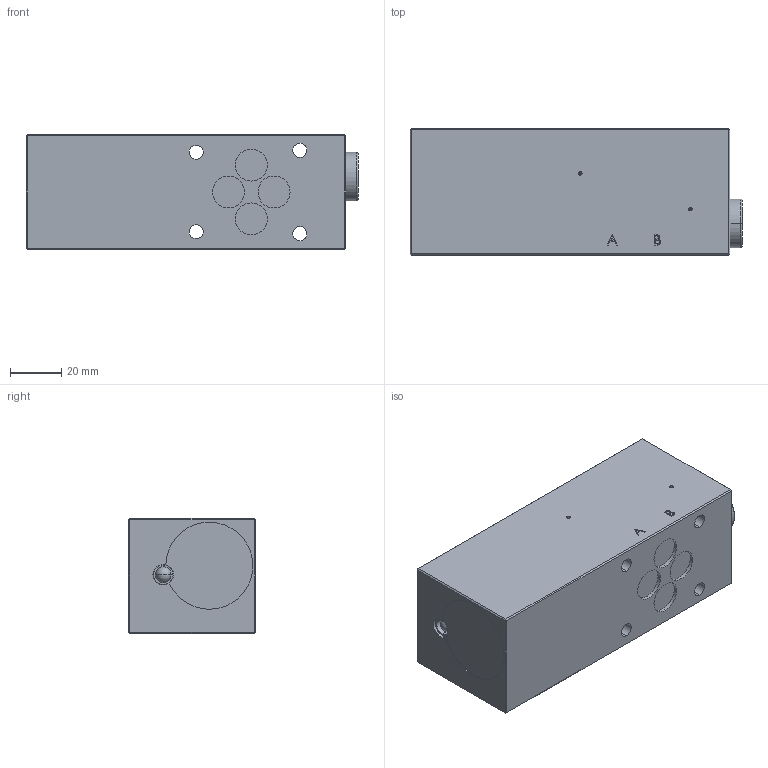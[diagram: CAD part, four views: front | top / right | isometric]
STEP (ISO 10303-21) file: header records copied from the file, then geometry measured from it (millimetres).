
FILE_DESCRIPTION (( 'STEP AP214' ), '1' );
FILE_NAME ('M..SA06-A.STEP', '2024-03-28T13:46:32', ( '' ), ( '' ), 'SwSTEP 2.0', 'SolidWorks 2022', '' );
FILE_SCHEMA (( 'AUTOMOTIVE_DESIGN' ));
Length unit declared in the file: millimetre
Products named in the file (1): M..SA06-A
Bounding box: 129.7 x 49.5 x 45 mm (x, y, z)
Volume: 273460.8 mm3; surface area: 32768.4 mm2
Topology: 1 solids, 7 shells, 188 faces, 430 edges, 269 vertices
Faces by surface type: plane 76, cylinder 65, cone 20, sphere 16, bspline 9, torus 2
Entity records: 7776 total; most frequent: CARTESIAN_POINT 1459, DIRECTION 934, ORIENTED_EDGE 840, EDGE_CURVE 420, AXIS2_PLACEMENT_3D 356, VERTEX_POINT 269, EDGE_LOOP 225, LINE 222
